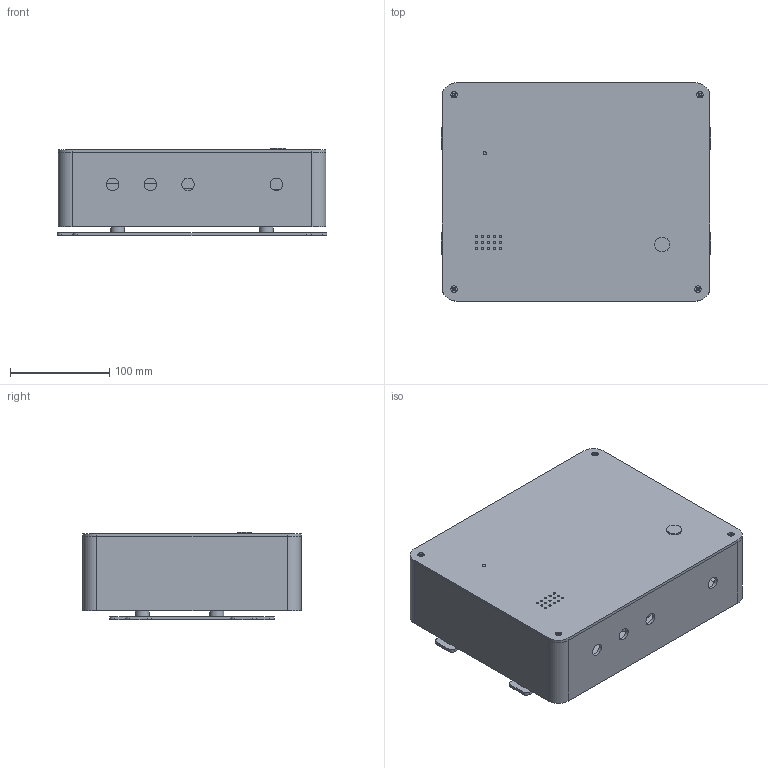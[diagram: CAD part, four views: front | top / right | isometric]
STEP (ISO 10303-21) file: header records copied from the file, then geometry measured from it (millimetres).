
FILE_DESCRIPTION(('Open CASCADE Model'),'2;1');
FILE_NAME('Open CASCADE Shape Model','2026-10-05T19:39:44',('Author'),( 'Open CASCADE'),'Open CASCADE STEP processor 7.8','Open CASCADE 7.8' ,'Unknown');
FILE_SCHEMA(('AUTOMOTIVE_DESIGN { 1 0 10303 214 1 1 1 1 }'));
Length unit declared in the file: millimetre
Products named in the file (17): CG_ENCLOSURE_EVT1; base; lid; carrier; battery_tray; wall_bracket; status_LED_proxy; mute_button_proxy; buzzer_clearance; AUTOCHG_RESERVED; IO_RESERVED; BT1_RESERVED; U2_RESERVED; U3_RESERVED; U1_RESERVED; U5_RESERVED; U6_RESERVED
Assembly tree (16 placements, depth 2):
  CG_ENCLOSURE_EVT1
    base
    lid
    carrier
    battery_tray
    wall_bracket
    status_LED_proxy
    mute_button_proxy
    buzzer_clearance
    AUTOCHG_RESERVED
    IO_RESERVED
    BT1_RESERVED
    U2_RESERVED
    U3_RESERVED
    U1_RESERVED
    U5_RESERVED
    U6_RESERVED
Bounding box: 272 x 220 x 88.5 mm (x, y, z)
Volume: 1222322.2 mm3; surface area: 651597.1 mm2
Topology: 16 solids, 16 shells, 440 faces, 1143 edges, 762 vertices
Faces by surface type: plane 263, cylinder 177
Full cylindrical faces by diameter (mm): 2.2 x15, 2.6 x8, 3 x1, 3.3 x1, 3.4 x11, 4.5 x8, 6.4 x4, 9 x4, 12 x9, 12.2 x1, 12.5 x4, 14 x7, 15 x1
Entity records: 29447 total; most frequent: CARTESIAN_POINT 6581, DIRECTION 4074, ORIENTED_EDGE 2286, PCURVE 2286, DEFINITIONAL_REPRESENTATION 2286, LINE 2232, VECTOR 2232, EDGE_CURVE 1143
